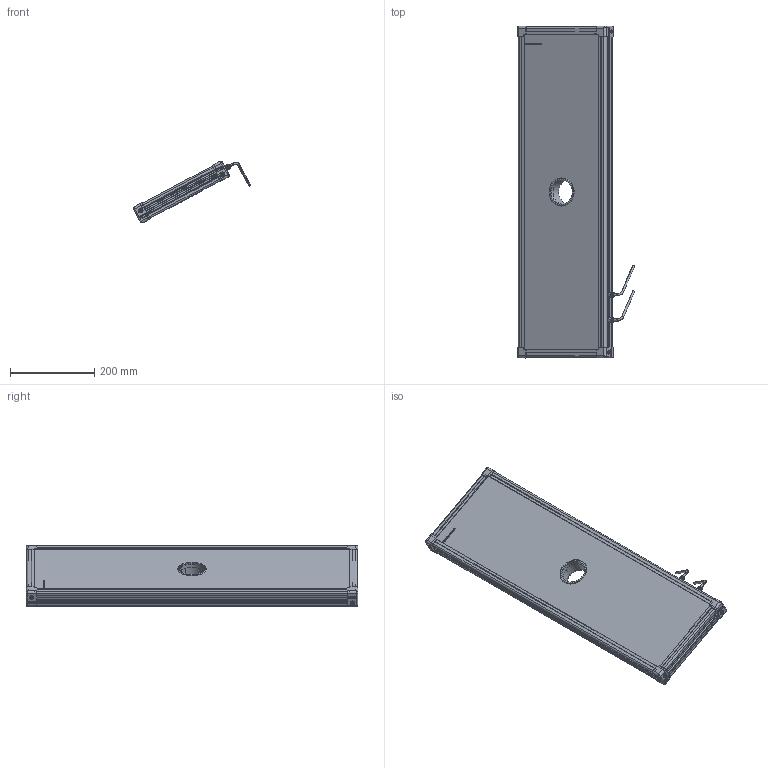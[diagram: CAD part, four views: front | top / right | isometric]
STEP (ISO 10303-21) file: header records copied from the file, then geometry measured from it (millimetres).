
FILE_DESCRIPTION (( 'STEP AP214' ), '1' );
FILE_NAME ('EFFI-BL-200-50-ZZZ-2M12.STEP', '2021-06-21T11:05:13', ( '' ), ( '' ), 'SwSTEP 2.0', 'SolidWorks 2021', '' );
FILE_SCHEMA (( 'AUTOMOTIVE_DESIGN' ));
Length unit declared in the file: millimetre
Products named in the file (13): petite joue + vis; 000590; 001037; profile Y_PERCE; petite joue; profile X_PERCE; 000629; Assemblage Ø58.5; cordon_Avec cable; Pièce13^EFFI-BL-XXX-YYY-ZZZ (2 connecteurs) Ø58.5; EFFI-BL-200-50-ZZZ-2M12; 001038
Assembly tree (20 placements, depth 3):
  EFFI-BL-200-50-ZZZ-2M12
    profile X_PERCE  x2
    profile Y_PERCE
    profile Y_PERCE
    Pièce13^EFFI-BL-XXX-YYY-ZZZ (2 connecteurs) Ø58.5
    petite joue + vis  x4
      petite joue
      000629
    Assemblage Ø58.5
      001037
      001038
      000590  x3
    cordon_Avec cable  x2
Bounding box: 278.11 x 789 x 146.82 mm (x, y, z)
Volume: 6414850.8 mm3; surface area: 712582.5 mm2
Topology: 22 solids, 34 shells, 4044 faces, 10746 edges, 7052 vertices
Faces by surface type: plane 2495, cylinder 739, bspline 603, cone 154, torus 45, sphere 8
Entity records: 56929 total; most frequent: CARTESIAN_POINT 22745, ORIENTED_EDGE 7120, DIRECTION 5873, EDGE_CURVE 3564, LINE 2489, VECTOR 2489, VERTEX_POINT 2343, AXIS2_PLACEMENT_3D 1692
